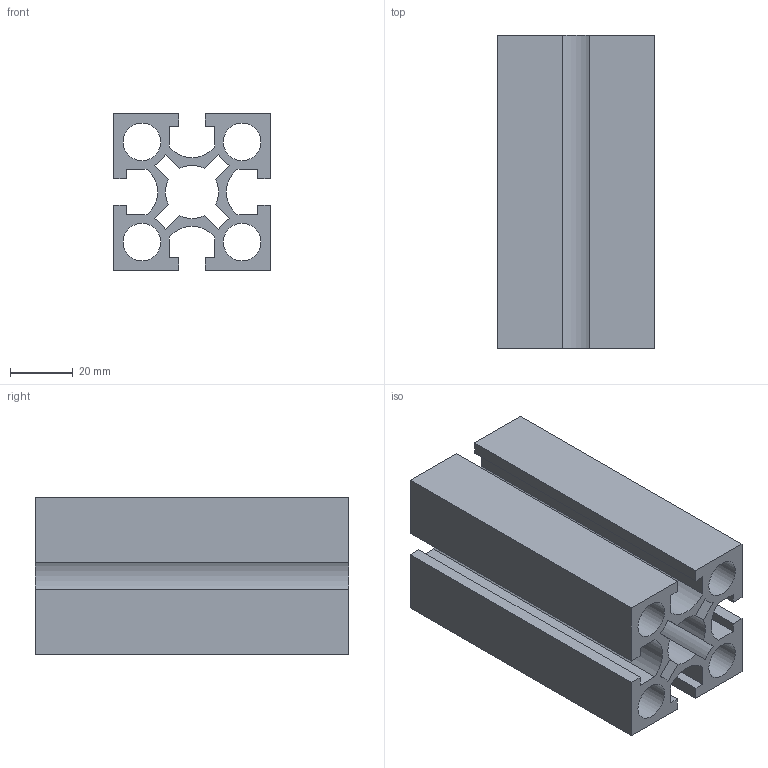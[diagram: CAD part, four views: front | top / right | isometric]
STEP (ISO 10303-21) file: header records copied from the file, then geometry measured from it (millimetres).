
FILE_DESCRIPTION(/* description */ ('Unknown'),/* implementation_level */ '2;1');
FILE_NAME(/* name */ 'NM5050',/* time_stamp */ '2026-08-31T11:49:35+08:00',/* author */ ('Unknown'),/* organization */ ('Unknown'),/* preprocessor_version */ 'ST-DEVELOPER v16.7',/* originating_system */ 'DEX',/* authorisation */ $);
FILE_SCHEMA (('AUTOMOTIVE_DESIGN {1 0 10303 214 3 1 1}'));
Length unit declared in the file: millimetre
Products named in the file (1): 5050-
Bounding box: 50 x 100 x 50 mm (x, y, z)
Volume: 104826.8 mm3; surface area: 61809.8 mm2
Topology: 1 solids, 1 shells, 58 faces, 168 edges, 112 vertices
Faces by surface type: plane 42, cylinder 16
Full cylindrical faces by diameter (mm): 12 x4
Entity records: 1934 total; most frequent: CARTESIAN_POINT 335, ORIENTED_EDGE 328, DIRECTION 314, EDGE_CURVE 164, LINE 132, VECTOR 132, VERTEX_POINT 112, AXIS2_PLACEMENT_3D 91
